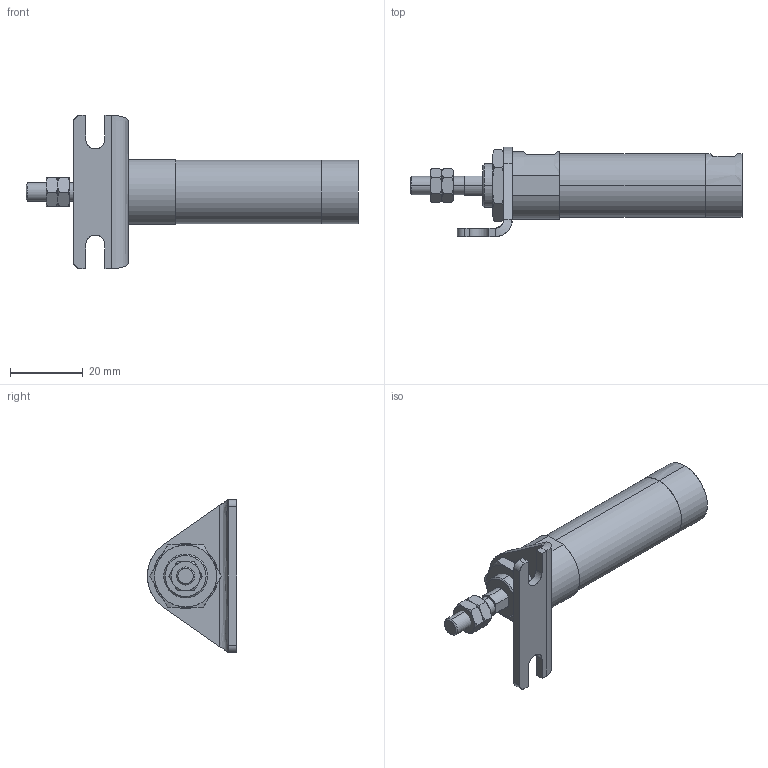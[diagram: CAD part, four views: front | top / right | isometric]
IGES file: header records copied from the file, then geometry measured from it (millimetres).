
Start section: SolidWorks IGES file using analytic representation for surfaces
Global section: file name: C:\Users\Toshiba\Desktop\ZGU2-16-15-L.IGS; native system: SolidWorks 2014; preprocessor: SolidWorks 2014; author: Toshiba; date: 160331.085719; units: millimetre
Bounding box: 91 x 24.5 x 42 mm (x, y, z)
Surface area: 7972.7 mm2 (no closed solid volume)
Topology: 0 solids, 0 shells, 134 faces, 2010 edges, 2006 vertices
Faces by surface type: bspline 94, revolution 40
